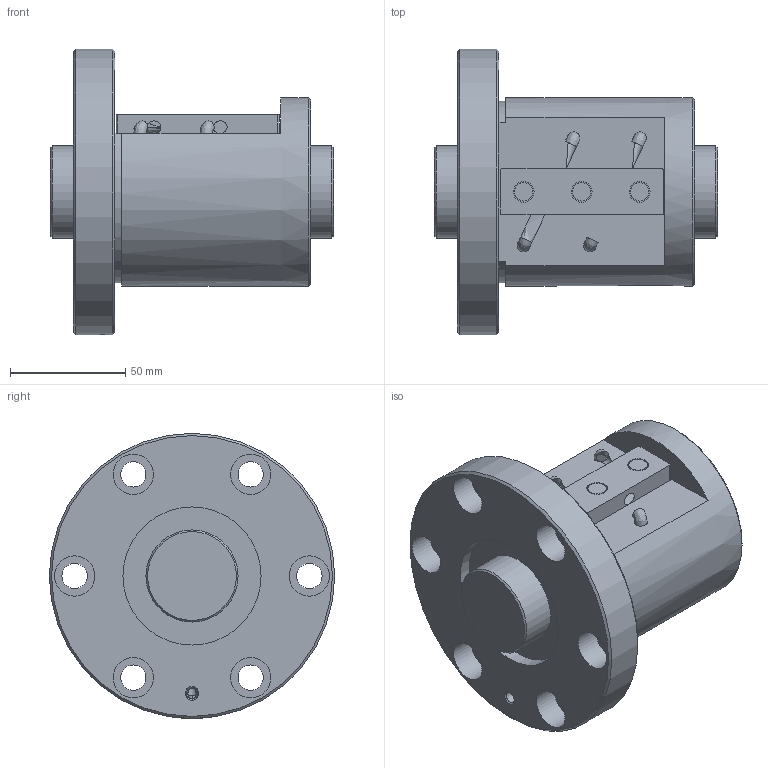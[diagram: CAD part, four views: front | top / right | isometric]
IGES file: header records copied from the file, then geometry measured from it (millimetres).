
Start section: Data from Parasolid IGES Translator 26.0.171, Copyright(c) 2006 Siemens PLM Software. All Rights Reserved.
Global section: file name: BNF4010V-5RRG1+123LC0_000_rev.igs; native system: By Siemens PLM Incorporated; preprocessor: XPlus GENERIC/IGES 26.0.171; author: Noname; organization: Noname; date: 20240806.084054; units: millimetre
Bounding box: 123 x 124 x 124 mm (x, y, z)
Surface area: 90270.1 mm2 (no closed solid volume)
Topology: 0 solids, 0 shells, 79 faces, 346 edges, 304 vertices
Faces by surface type: revolution 50, extrusion 29
